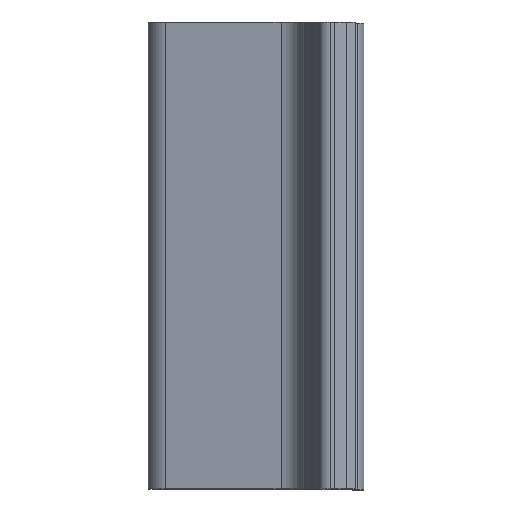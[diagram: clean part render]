
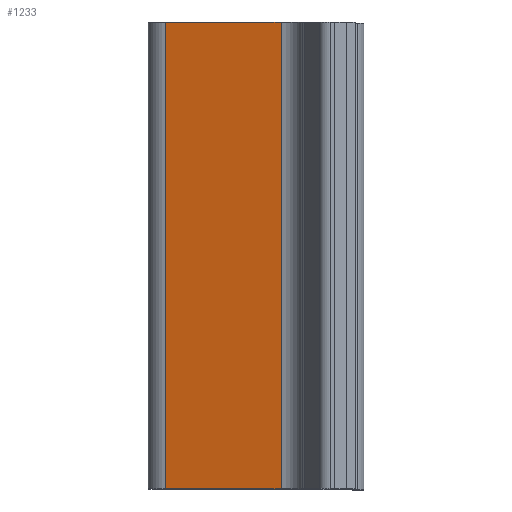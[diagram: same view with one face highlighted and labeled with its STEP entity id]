
A CAD part, top view. The second image highlights one B-rep face of the part: STEP entity #1233.
In plain terms, the highlighted planar face has unit normal (-0.259, 0, 0.966).
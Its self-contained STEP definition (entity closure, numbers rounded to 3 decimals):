
#57=PLANE('',#1367);
#113=FACE_OUTER_BOUND('',#175,.T.);
#175=EDGE_LOOP('',(#1061,#1062,#1063,#1064));
#313=LINE('',#2081,#437);
#314=LINE('',#2085,#438);
#315=LINE('',#2087,#439);
#316=LINE('',#2088,#440);
#437=VECTOR('',#1709,10.);
#438=VECTOR('',#1714,10.);
#439=VECTOR('',#1715,10.);
#440=VECTOR('',#1716,10.);
#605=VERTEX_POINT('',#2078);
#606=VERTEX_POINT('',#2080);
#607=VERTEX_POINT('',#2084);
#608=VERTEX_POINT('',#2086);
#784=EDGE_CURVE('',#606,#605,#313,.T.);
#786=EDGE_CURVE('',#605,#607,#314,.T.);
#787=EDGE_CURVE('',#608,#607,#315,.T.);
#788=EDGE_CURVE('',#608,#606,#316,.T.);
#1061=ORIENTED_EDGE('',*,*,#786,.T.);
#1062=ORIENTED_EDGE('',*,*,#787,.F.);
#1063=ORIENTED_EDGE('',*,*,#788,.T.);
#1064=ORIENTED_EDGE('',*,*,#784,.T.);
#1233=ADVANCED_FACE('',(#113),#57,.T.);
#1367=AXIS2_PLACEMENT_3D('',#2083,#1712,#1713);
#1709=DIRECTION('',(0.,1.,0.));
#1712=DIRECTION('center_axis',(-0.259,0.,0.966));
#1713=DIRECTION('ref_axis',(0.966,0.,0.259));
#1714=DIRECTION('',(-0.966,0.,-0.259));
#1715=DIRECTION('',(0.,1.,0.));
#1716=DIRECTION('',(0.966,0.,0.259));
#2078=CARTESIAN_POINT('',(4.294,40.,34.174));
#2080=CARTESIAN_POINT('',(4.294,-40.,34.174));
#2081=CARTESIAN_POINT('',(4.294,-40.,34.174));
#2083=CARTESIAN_POINT('Origin',(4.294,-40.,34.174));
#2084=CARTESIAN_POINT('',(-15.535,40.,28.861));
#2085=CARTESIAN_POINT('',(-15.535,40.,28.861));
#2086=CARTESIAN_POINT('',(-15.535,-40.,28.861));
#2087=CARTESIAN_POINT('',(-15.535,-40.,28.861));
#2088=CARTESIAN_POINT('',(-15.535,-40.,28.861));
